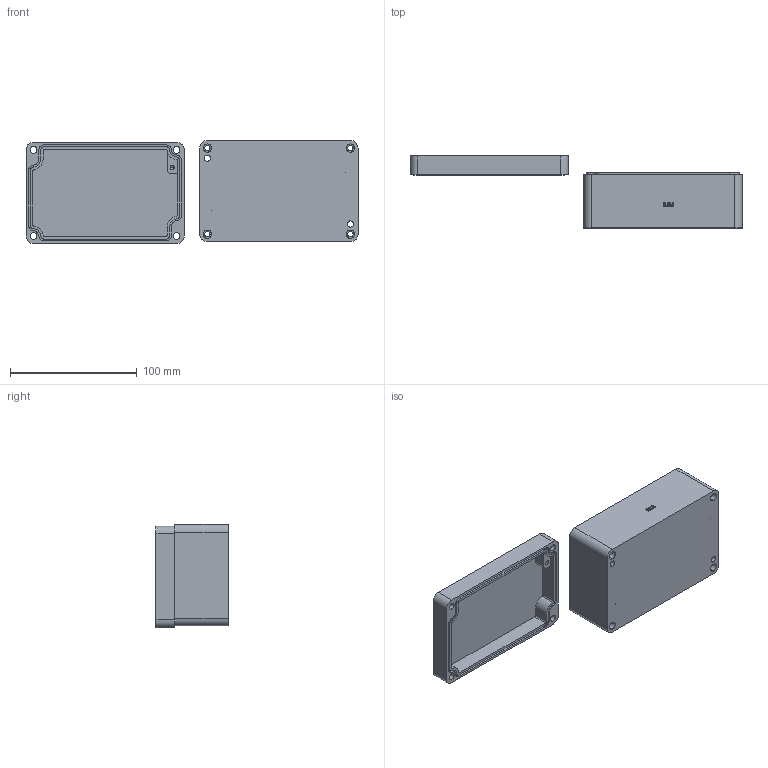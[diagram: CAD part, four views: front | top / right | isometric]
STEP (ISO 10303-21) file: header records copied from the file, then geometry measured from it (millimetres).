
FILE_DESCRIPTION (( 'STEP AP203' ), '1' );
FILE_NAME ('ZX-AL-081205_装配体.STEP', '2022-01-24T07:51:53', ( '微软用户' ), ( '微软中国' ), 'SwSTEP 2.0', 'SolidWorks 2020', '' );
FILE_SCHEMA (( 'CONFIG_CONTROL_DESIGN' ));
Length unit declared in the file: millimetre
Products named in the file (3): ZX-AL-081205_奻; ZX-AL-081205_狟; ZX-AL-081205_蚾饜极
Assembly tree (2 placements, depth 2):
  ZX-AL-081205_蚾饜极
    ZX-AL-081205_狟
    ZX-AL-081205_奻
Bounding box: 262.29 x 57 x 81.42 mm (x, y, z)
Volume: 156996.5 mm3; surface area: 90571.2 mm2
Topology: 2 solids, 2 shells, 570 faces, 1565 edges, 1020 vertices
Faces by surface type: plane 282, cylinder 123, bspline 123, cone 42
Entity records: 23892 total; most frequent: CARTESIAN_POINT 9725, ORIENTED_EDGE 3102, DIRECTION 2491, EDGE_CURVE 1551, VECTOR 1023, LINE 1023, VERTEX_POINT 1020, AXIS2_PLACEMENT_3D 734
